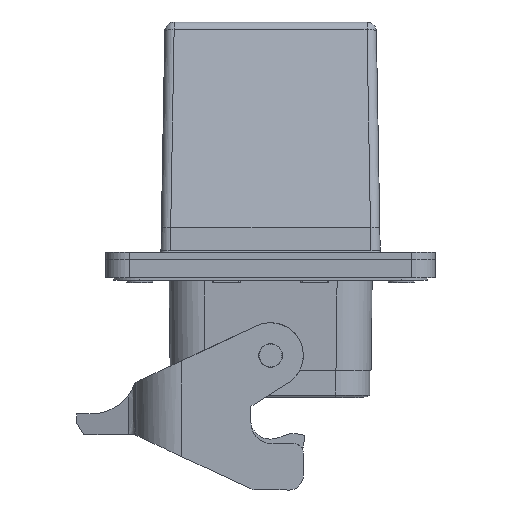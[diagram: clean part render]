
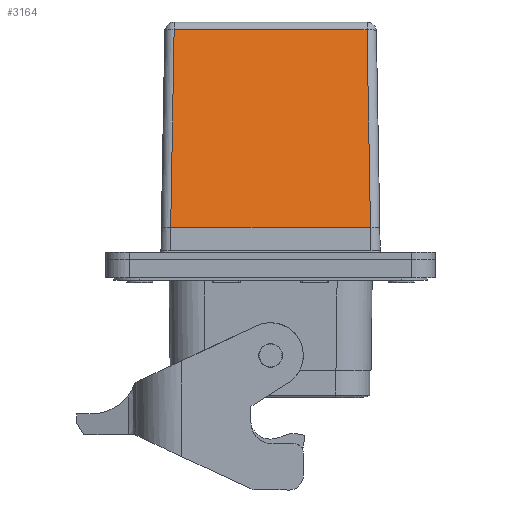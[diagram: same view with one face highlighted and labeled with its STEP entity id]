
A CAD part, left-side view. The second image highlights one B-rep face of the part: STEP entity #3164.
In plain terms, the highlighted planar face has unit normal (-0.982, 0, 0.191).
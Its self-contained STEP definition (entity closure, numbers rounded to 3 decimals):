
#2706=ELLIPSE('',#24847,16.907,2.);
#2709=ELLIPSE('',#24853,16.907,2.);
#3164=ADVANCED_FACE('',(#4504),#3948,.T.);
#3948=PLANE('',#25036);
#4504=FACE_OUTER_BOUND('',#5330,.T.);
#5330=EDGE_LOOP('',(#7132,#7133,#7134,#7135,#7136,#7137));
#7132=ORIENTED_EDGE('',*,*,#12252,.T.);
#7133=ORIENTED_EDGE('',*,*,#12247,.T.);
#7134=ORIENTED_EDGE('',*,*,#12861,.T.);
#7135=ORIENTED_EDGE('',*,*,#12257,.T.);
#7136=ORIENTED_EDGE('',*,*,#12260,.T.);
#7137=ORIENTED_EDGE('',*,*,#12857,.T.);
#10694=VERTEX_POINT('',#33415);
#10695=VERTEX_POINT('',#33416);
#10699=VERTEX_POINT('',#33426);
#10703=VERTEX_POINT('',#33435);
#10704=VERTEX_POINT('',#33437);
#10705=VERTEX_POINT('',#33441);
#12247=EDGE_CURVE('',#10694,#10695,#18630,.T.);
#12252=EDGE_CURVE('',#10699,#10694,#2706,.T.);
#12257=EDGE_CURVE('',#10704,#10703,#18635,.T.);
#12260=EDGE_CURVE('',#10703,#10705,#2709,.T.);
#12857=EDGE_CURVE('',#10705,#10699,#19033,.T.);
#12861=EDGE_CURVE('',#10695,#10704,#19037,.T.);
#18630=LINE('',#33414,#20706);
#18635=LINE('',#33436,#20711);
#19033=LINE('',#34835,#21109);
#19037=LINE('',#34841,#21113);
#20706=VECTOR('',#26829,1.);
#20711=VECTOR('',#26848,1.);
#21109=VECTOR('',#27612,1.);
#21113=VECTOR('',#27620,1.);
#24847=AXIS2_PLACEMENT_3D('',#33425,#26838,#26839);
#24853=AXIS2_PLACEMENT_3D('',#33443,#26854,#26855);
#25036=AXIS2_PLACEMENT_3D('',#34842,#27621,#27622);
#26829=DIRECTION('',(0.191,0.017,0.981));
#26838=DIRECTION('',(-0.982,0.,0.191));
#26839=DIRECTION('',(-0.191,-0.018,-0.981));
#26848=DIRECTION('',(-0.191,0.017,-0.981));
#26854=DIRECTION('',(-0.982,0.,0.191));
#26855=DIRECTION('',(-0.191,0.018,-0.981));
#27612=DIRECTION('',(0.,-1.,0.));
#27620=DIRECTION('',(0.,1.,0.));
#27621=DIRECTION('',(-0.982,0.,0.191));
#27622=DIRECTION('',(-0.191,0.,-0.982));
#33414=CARTESIAN_POINT('',(-44.873,-21.376,25.501));
#33415=CARTESIAN_POINT('',(-45.,-21.388,24.85));
#33416=CARTESIAN_POINT('',(-36.762,-20.648,67.232));
#33425=CARTESIAN_POINT('',(-41.774,-21.091,41.444));
#33426=CARTESIAN_POINT('',(-45.,-21.384,24.85));
#33435=CARTESIAN_POINT('',(-45.,21.388,24.85));
#33436=CARTESIAN_POINT('',(-44.95,21.383,25.108));
#33437=CARTESIAN_POINT('',(-36.762,20.648,67.232));
#33441=CARTESIAN_POINT('',(-45.,21.384,24.85));
#33443=CARTESIAN_POINT('',(-41.774,21.091,41.444));
#34835=CARTESIAN_POINT('',(-45.,0.,24.85));
#34841=CARTESIAN_POINT('',(-36.762,0.,67.232));
#34842=CARTESIAN_POINT('',(-44.943,0.,25.141));
